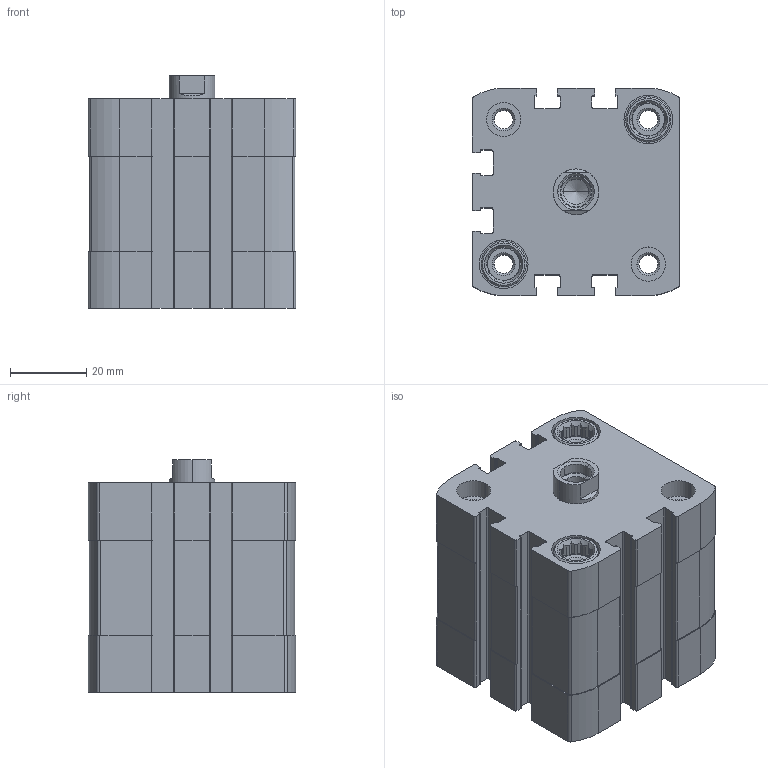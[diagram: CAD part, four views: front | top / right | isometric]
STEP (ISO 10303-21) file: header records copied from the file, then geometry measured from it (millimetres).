
FILE_DESCRIPTION (( 'STEP AP203' ), '1' );
FILE_NAME ('CCN40-10F.STEP', '2017-04-06T12:29:35', ( '' ), ( '' ), 'SwSTEP 2.0', 'SolidWorks 2016', '' );
FILE_SCHEMA (( 'CONFIG_CONTROL_DESIGN' ));
Length unit declared in the file: millimetre
Products named in the file (3): CCN-10---(Z); CCN-10_(KS); CCN40-10F
Assembly tree (2 placements, depth 2):
  CCN40-10F
    CCN-10---(Z)
    CCN-10_(KS)
Bounding box: 54.5 x 54.5 x 61.1 mm (x, y, z)
Volume: 129443.1 mm3; surface area: 38939.7 mm2
Topology: 2 solids, 2 shells, 479 faces, 1298 edges, 853 vertices
Faces by surface type: plane 267, cylinder 170, cone 42
Entity records: 15589 total; most frequent: CARTESIAN_POINT 2927, DIRECTION 2652, ORIENTED_EDGE 2592, EDGE_CURVE 1296, AXIS2_PLACEMENT_3D 970, VERTEX_POINT 853, VECTOR 712, LINE 712
